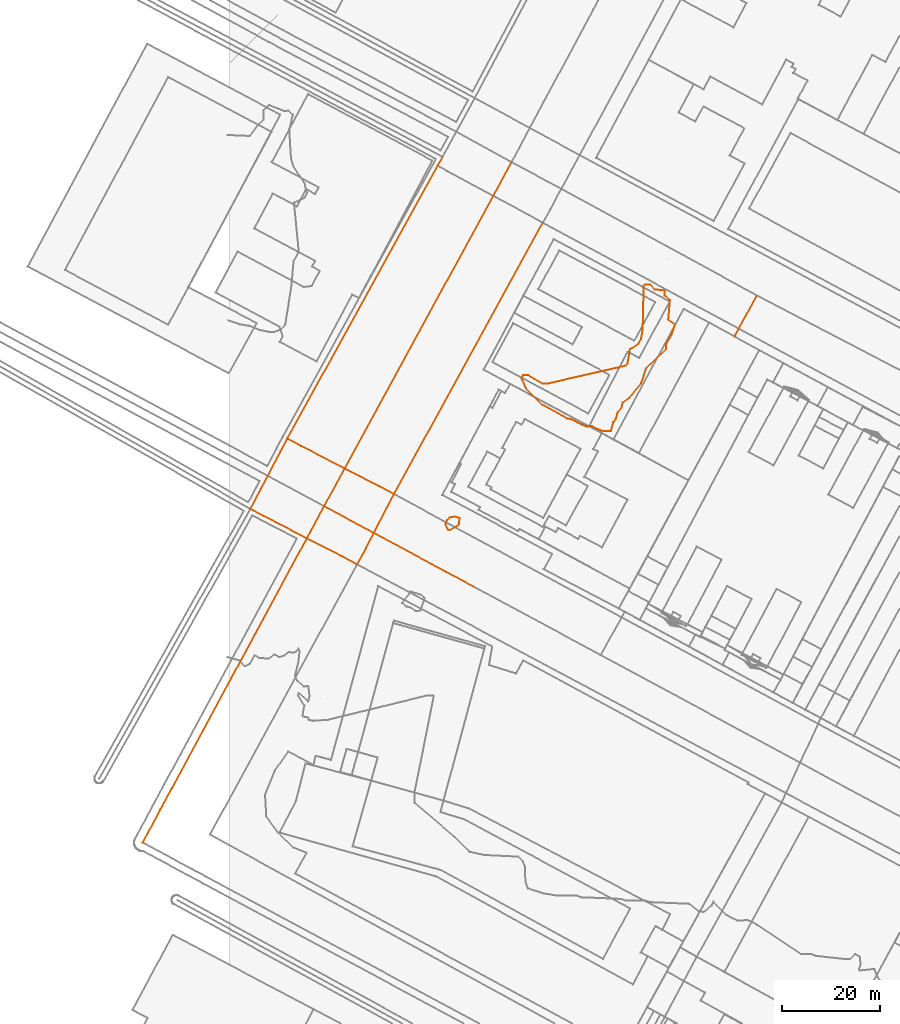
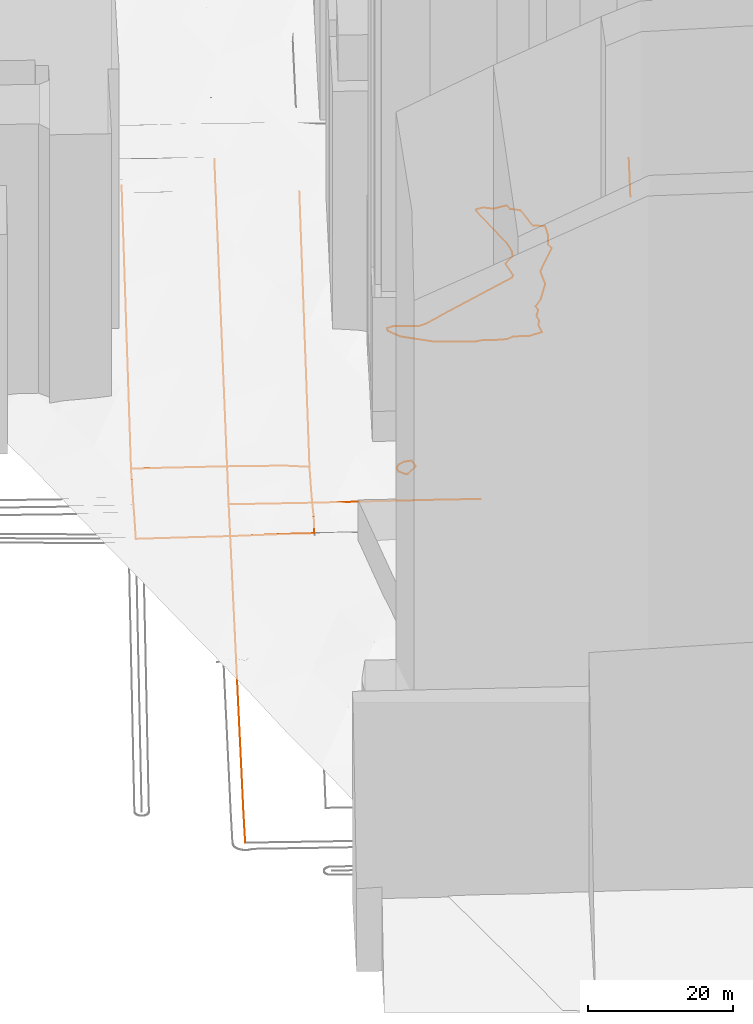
# Not in any storey, part 59 of 80: 9 civil elements, 2 geographic elements.
"""IFC4 model written with IfcOpenShell, lengths in metres."""

from ifc_helpers import new_model, entity, si_unit, frame, origin_with_axes, place, context, subcontext, project, spatial, element, save


model = new_model("IFC4")

# Units and contexts
model_context = context("Model", 3, precision=1e-05, world=origin_with_axes())
body_context = subcontext(model_context, "Body", "Model", "MODEL_VIEW")
ifc_project = project(units=[si_unit("AREAUNIT", "SQUARE_METRE"), si_unit("LENGTHUNIT", "METRE")], contexts=[model_context])

# Sites
site_1_placement = place(None, origin_with_axes())
site_1 = spatial("IfcSite", under=ifc_project, at=site_1_placement, Name="Topoexport Site")
site_2_placement = place(site_1_placement, origin_with_axes())
site_2 = spatial("IfcSite", under=site_1, at=site_2_placement, Name="TPX_ROUTES")

# Civil elements
civil_element_1_placement = place(site_2_placement, frame((103.4986312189, 183.6113298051, 22.1721413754), z_axis=(0.0, 0.0, 1.0), x_axis=(1.0, 0.0, 0.0)))
element("IfcCivilElement", 1, at=civil_element_1_placement, inside=site_2, Name="Route 70", ObjectType="ROAD", context=body_context, shape_type="GeometricCurveSet", body=[
    entity("IfcGeometricCurveSet", [entity("IfcIndexedPolyCurve", entity("IfcCartesianPointList3D", [[4.5871852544, 8.424378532, -0.0134747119], [0.8761128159, 1.6089001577, 0.0185078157], [0.0, 0.0, 0.0]]))]),
])
civil_element_2_placement = place(site_2_placement, frame((11.8640454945, 162.6856584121, 21.1440333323), z_axis=(0.0, 0.0, 1.0), x_axis=(1.0, 0.0, 0.0)))
element("IfcCivilElement", 2, at=civil_element_2_placement, inside=site_2, Name="Route 103", ObjectType="ROAD", context=body_context, shape_type="GeometricCurveSet", body=[
    entity("IfcGeometricCurveSet", [entity("IfcIndexedPolyCurve", entity("IfcCartesianPointList3D", [[31.8214660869, 57.7234919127, 1.7070171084], [30.8293704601, 55.9245146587, 1.6403440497], [0.0, 0.0, 0.0]]))]),
])
civil_element_3_placement = place(site_2_placement, frame((33.7329413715, 151.3153674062, 20.6846759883), z_axis=(0.0, 0.0, 1.0), x_axis=(1.0, 0.0, 0.0)))
element("IfcCivilElement", 3, at=civil_element_3_placement, inside=site_2, Name="Route 104", ObjectType="ROAD", context=body_context, shape_type="GeometricCurveSet", body=[
    entity("IfcGeometricCurveSet", [entity("IfcIndexedPolyCurve", entity("IfcCartesianPointList3D", [[30.470061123, 55.598471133, 2.1190828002], [0.0, 0.0, 0.0]]))]),
])
civil_element_4_placement = place(site_2_placement, frame((19.4194815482, 148.8400023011, 20.8964026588), z_axis=(0.0, 0.0, 1.0), x_axis=(1.0, 0.0, 0.0)))
element("IfcCivilElement", 4, at=civil_element_4_placement, inside=site_2, Name="Route 107", ObjectType="ROAD", context=body_context, shape_type="GeometricCurveSet", body=[
    entity("IfcGeometricCurveSet", [entity("IfcIndexedPolyCurve", entity("IfcCartesianPointList3D", [[30.6654746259, -16.497328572, 0.172092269], [25.033523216, -13.4651714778, 0.1630108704], [10.1510862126, -5.4666374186, 0.0269875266], [0.0, 0.0, 0.0]]))]),
])
civil_element_5_placement = place(site_2_placement, frame((26.1761408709, 136.9057730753, 20.8976590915), z_axis=(0.0, 0.0, 1.0), x_axis=(1.0, 0.0, 0.0)))
element("IfcCivilElement", 5, at=civil_element_5_placement, inside=site_2, Name="Route 108", ObjectType="ROAD", context=body_context, shape_type="GeometricCurveSet", body=[
    entity("IfcGeometricCurveSet", [entity("IfcIndexedPolyCurve", entity("IfcCartesianPointList3D", [[7.5568005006, 14.4095943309, -0.2129831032], [6.0618083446, 11.5722737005, -0.2060167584], [3.39442689, 6.4675918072, 0.0257310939], [1.8601921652, 3.3744650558, 0.0338050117], [0.0, 0.0, 0.0]]))]),
])
civil_element_6_placement = place(site_2_placement, frame((-17.7426653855, 79.9080372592, 18.7209006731), z_axis=(0.0, 0.0, 1.0), x_axis=(1.0, 0.0, 0.0)))
element("IfcCivilElement", 6, at=civil_element_6_placement, inside=site_2, Name="Route 109", ObjectType="ROAD", context=body_context, shape_type="GeometricCurveSet", body=[
    entity("IfcGeometricCurveSet", [entity("IfcIndexedPolyCurve", entity("IfcCartesianPointList3D", [[75.5718486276, 139.4107359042, 4.3126888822], [71.8110052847, 132.516989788, 4.1260236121], [41.3777466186, 76.6525343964, 2.4123696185], [37.1621469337, 68.9319650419, 2.1755019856], [33.6170744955, 62.3516076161, 2.0493660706], [23.0390984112, 42.7666424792, 1.3590600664], [6.0235864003, 11.2387228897, 0.3403631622], [3.6186518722, 6.7921351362, 0.2037622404], [0.0, 0.0, 0.0]]))]),
])
civil_element_7_placement = place(site_2_placement, frame((11.8640454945, 162.6856584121, 21.1440333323), z_axis=(0.0, 0.0, 1.0), x_axis=(1.0, 0.0, 0.0)))
element("IfcCivilElement", 7, at=civil_element_7_placement, inside=site_2, Name="Route 110", ObjectType="ROAD", context=body_context, shape_type="GeometricCurveSet", body=[
    entity("IfcGeometricCurveSet", [entity("IfcIndexedPolyCurve", entity("IfcCartesianPointList3D", [[0.0, 0.0, 0.0], [2.8281677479, -1.4770917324, 0.0259270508], [11.7710357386, -6.1250867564, -0.0107630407], [18.844658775, -9.7289479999, -0.1821409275], [21.868895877, -11.3702910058, -0.459357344]]))]),
])
civil_element_8_placement = place(site_2_placement, frame((4.3072155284, 148.276086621, 20.7092420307), z_axis=(0.0, 0.0, 1.0), x_axis=(1.0, 0.0, 0.0)))
element("IfcCivilElement", 8, at=civil_element_8_placement, inside=site_2, Name="Route 111", ObjectType="ROAD", context=body_context, shape_type="GeometricCurveSet", body=[
    entity("IfcGeometricCurveSet", [entity("IfcIndexedPolyCurve", entity("IfcCartesianPointList3D", [[0.0, 0.0, 0.0], [2.0815217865, 3.9432417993, 0.1284079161], [3.5512016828, 6.780263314, 0.2180049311], [6.2520973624, 11.9075305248, 0.3724488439], [7.556829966, 14.4095717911, 0.4347913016]]))]),
])
civil_element_9_placement = place(site_2_placement, frame((4.3072155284, 148.276086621, 20.7092420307), z_axis=(0.0, 0.0, 1.0), x_axis=(1.0, 0.0, 0.0)))
element("IfcCivilElement", 9, at=civil_element_9_placement, inside=site_2, Name="Route 112", ObjectType="ROAD", context=body_context, shape_type="GeometricCurveSet", body=[
    entity("IfcGeometricCurveSet", [entity("IfcIndexedPolyCurve", entity("IfcCartesianPointList3D", [[21.8689253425, -11.3703135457, 0.1884170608], [18.750937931, -9.6523395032, 0.1321283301], [11.5671935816, -6.0164417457, 0.0610247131], [2.7176734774, -1.4117631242, 0.0226509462], [0.0, 0.0, 0.0]]))]),
])

# Site
site_3_placement = place(site_1_placement, origin_with_axes())
site_3 = spatial("IfcSite", under=site_1, at=site_3_placement, Name="TPX_CONTOURS")

# Geographic elements
geographic_element_1_placement = place(site_3_placement, frame((59.9189279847, 175.0447113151, 20.0), z_axis=(0.0, 0.0, 1.0), x_axis=(1.0, 0.0, 0.0)))
element("IfcGeographicElement", 10, at=geographic_element_1_placement, inside=site_3, Name="Contour 20.0 m", PredefinedType="NOTDEFINED", context=body_context, shape_type="GeometricCurveSet", body=[
    entity("IfcGeometricCurveSet", [entity("IfcIndexedPolyCurve", entity("IfcCartesianPointList3D", [[18.2725747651, -10.8330579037, 0.0], [18.7726360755, -9.0, 0.0], [19.2725747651, -8.3636363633, 0.0], [19.6475844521, -7.0, 0.0], [20.4648119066, -6.0, 0.0], [20.6725251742, -5.0, 0.0], [21.9868137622, -4.0, 0.0], [24.4899458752, -1.0, 0.0], [25.4393403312, 2.0, 0.0], [29.5452791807, 6.0, 0.0], [29.5926730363, 7.0, 0.0], [30.7170443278, 9.0, 0.0], [31.4105629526, 11.0, 0.0], [30.0227876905, 12.0, 0.0], [30.3762392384, 16.0, 0.0], [29.2940883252, 17.0, 0.0], [29.2725747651, 18.0105322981, 0.0], [27.2725747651, 18.2174573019, 0.0], [26.2725747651, 19.1778091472, 0.0], [25.2725747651, 19.2618556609, 0.0], [24.9977013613, 19.0, 0.0], [24.7934783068, 10.0, 0.0], [24.4154912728, 8.0, 0.0], [23.8879503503, 7.0, 0.0], [22.1817681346, 6.0, 0.0], [21.67259384, 3.0, 0.0], [21.2725747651, 2.60003433, 0.0], [5.2725747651, -1.0713166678, 0.0], [4.2725747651, -1.0950477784, 0.0], [1.2725747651, 0.631689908, 0.0], [0.2725747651, 0.7057555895, 0.0], [0.0, 0.0, 0.0], [0.8517947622, -2.0, 0.0], [4.2725747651, -5.4373114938, 0.0], [9.2725747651, -8.2103440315, 0.0], [10.2725747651, -8.4209131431, 0.0], [12.2725747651, -9.499819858, 0.0], [13.2725747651, -9.8821721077, 0.0], [14.2725747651, -9.7499374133, 0.0], [16.2725747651, -10.7366978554, 0.0], [18.2725747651, -10.8330579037, 0.0]]))]),
])
geographic_element_2_placement = place(site_3_placement, frame((44.2785664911, 145.0447113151, 20.0), z_axis=(0.0, 0.0, 1.0), x_axis=(1.0, 0.0, 0.0)))
element("IfcGeographicElement", 11, at=geographic_element_2_placement, inside=site_3, Name="Contour 20.0 m", PredefinedType="NOTDEFINED", context=body_context, shape_type="GeometricCurveSet", body=[
    entity("IfcGeometricCurveSet", [entity("IfcIndexedPolyCurve", entity("IfcCartesianPointList3D", [[0.9129362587, -1.1130456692, 0.0], [2.7590858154, 0.0, 0.0], [2.9129362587, 1.367410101, 0.0], [1.9129362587, 1.6836106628, 0.0], [0.9129362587, 1.5000074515, 0.0], [0.3311799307, 1.0, 0.0], [0.0, 0.0, 0.0], [0.5606139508, -1.0, 0.0], [0.9129362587, -1.1130456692, 0.0]]))]),
])

save(model, "model.ifc")
